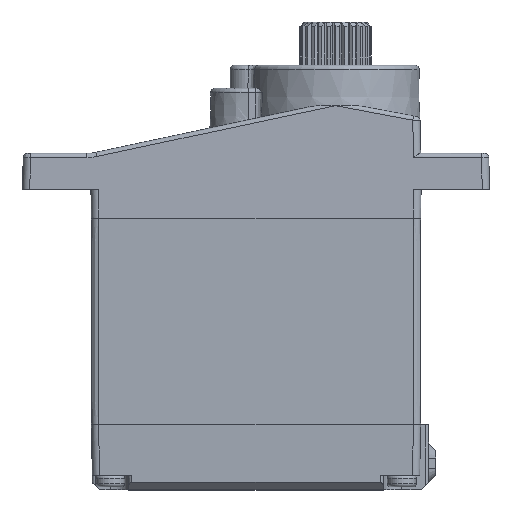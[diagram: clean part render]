
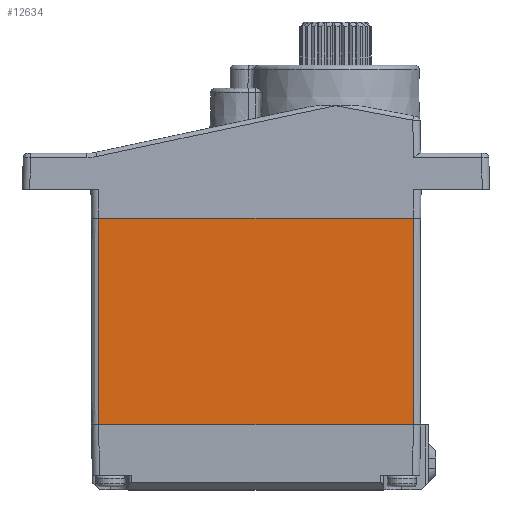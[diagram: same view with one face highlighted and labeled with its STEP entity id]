
A CAD part, top view. The second image highlights one B-rep face of the part: STEP entity #12634.
In plain terms, the highlighted planar face has unit normal (0, 0, 1).
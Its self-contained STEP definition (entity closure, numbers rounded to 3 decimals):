
#545=DIRECTION('',(1.,0.,0.));
#546=VECTOR('',#545,21.8);
#547=CARTESIAN_POINT('',(-10.9,0.,6.));
#548=LINE('',#547,#546);
#590=DIRECTION('',(1.,0.,0.));
#591=VECTOR('',#590,21.8);
#592=CARTESIAN_POINT('',(-10.9,-14.3,6.));
#593=LINE('',#592,#591);
#594=DIRECTION('',(0.,-1.,0.));
#595=VECTOR('',#594,14.3);
#596=CARTESIAN_POINT('',(-10.9,0.,6.));
#597=LINE('',#596,#595);
#628=DIRECTION('',(0.,-1.,0.));
#629=VECTOR('',#628,14.3);
#630=CARTESIAN_POINT('',(10.9,0.,6.));
#631=LINE('',#630,#629);
#6300=CARTESIAN_POINT('',(-10.9,0.,6.));
#6323=CARTESIAN_POINT('',(-10.9,-14.3,6.));
#10304=VERTEX_POINT('',#6300);
#10306=CARTESIAN_POINT('',(10.9,0.,6.));
#10307=VERTEX_POINT('',#10306);
#10946=VERTEX_POINT('',#6323);
#10948=CARTESIAN_POINT('',(10.9,-14.3,6.));
#10949=VERTEX_POINT('',#10948);
#12620=CARTESIAN_POINT('',(-10.9,0.,6.));
#12621=DIRECTION('',(0.,0.,1.));
#12622=DIRECTION('',(1.,0.,0.));
#12623=AXIS2_PLACEMENT_3D('',#12620,#12621,#12622);
#12624=PLANE('',#12623);
#12626=ORIENTED_EDGE('',*,*,#12625,.F.);
#12628=ORIENTED_EDGE('',*,*,#12627,.F.);
#12629=ORIENTED_EDGE('',*,*,#12594,.T.);
#12631=ORIENTED_EDGE('',*,*,#12630,.T.);
#12632=EDGE_LOOP('',(#12626,#12628,#12629,#12631));
#12633=FACE_OUTER_BOUND('',#12632,.F.);
#12594=EDGE_CURVE('',#10304,#10307,#548,.T.);
#12625=EDGE_CURVE('',#10946,#10949,#593,.T.);
#12627=EDGE_CURVE('',#10304,#10946,#597,.T.);
#12630=EDGE_CURVE('',#10307,#10949,#631,.T.);
#12634=ADVANCED_FACE('',(#12633),#12624,.T.);
